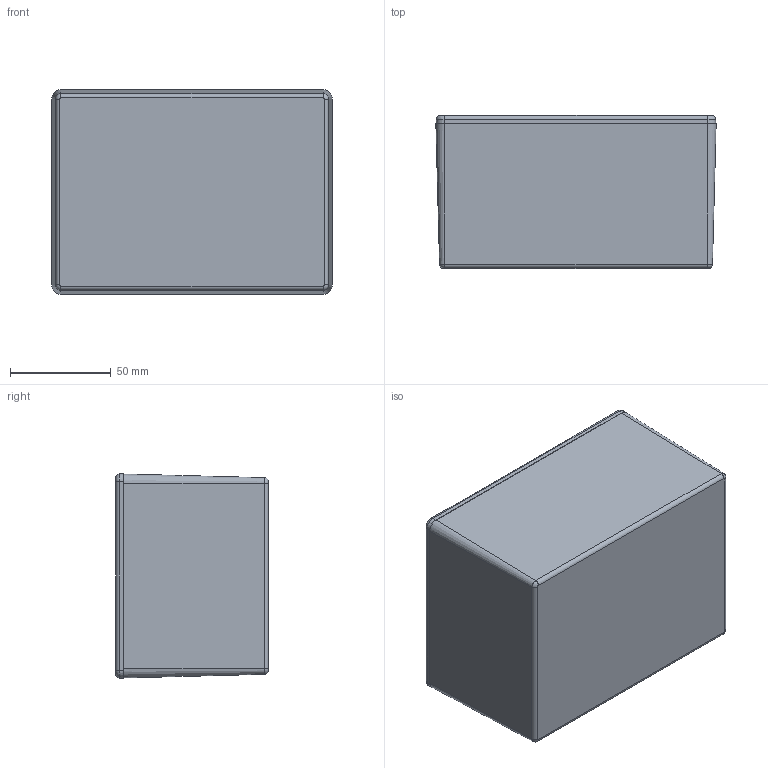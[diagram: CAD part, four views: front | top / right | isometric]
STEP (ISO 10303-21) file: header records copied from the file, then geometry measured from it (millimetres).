
FILE_DESCRIPTION (( 'STEP AP203' ), '1' );
FILE_NAME ('SE-408.STEP', '2020-09-28T05:34:54', ( '' ), ( '' ), 'SwSTEP 2.0', 'SolidWorks 2020', '' );
FILE_SCHEMA (( 'CONFIG_CONTROL_DESIGN' ));
Length unit declared in the file: millimetre
Products named in the file (3): SE-408-P-1; SE-408; SE-408-P-2
Assembly tree (2 placements, depth 2):
  SE-408
    SE-408-P-2
    SE-408-P-1
Bounding box: 139.3 x 75.9 x 101.6 mm (x, y, z)
Volume: 144077.1 mm3; surface area: 126358.8 mm2
Topology: 2 solids, 2 shells, 239 faces, 640 edges, 408 vertices
Faces by surface type: plane 107, cone 64, cylinder 44, torus 24
Entity records: 7875 total; most frequent: CARTESIAN_POINT 1440, DIRECTION 1344, ORIENTED_EDGE 1280, EDGE_CURVE 640, AXIS2_PLACEMENT_3D 496, VERTEX_POINT 408, VECTOR 352, LINE 352
